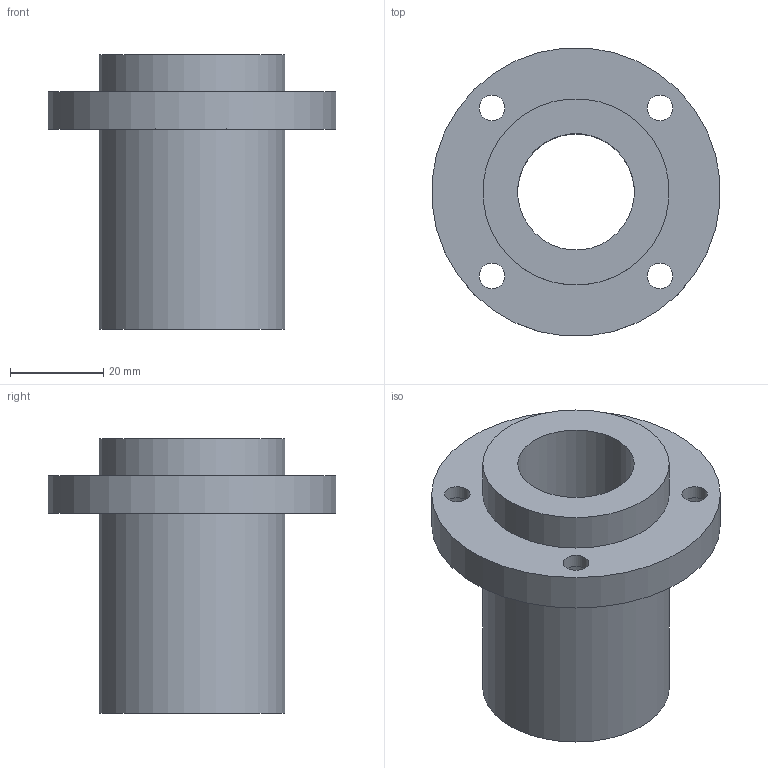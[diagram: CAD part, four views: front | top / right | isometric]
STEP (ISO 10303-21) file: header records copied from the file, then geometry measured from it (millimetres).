
FILE_DESCRIPTION(/* description */ (''),/* implementation_level */ '2;1');
FILE_NAME(/* name */ 'LMFP25UU',/* time_stamp */ '2019-07-03T11:33:16+02:00',/* author */ ('VĂ©gh MĂˇtĂ©'),/* organization */ ('Bearing Kft'),/* preprocessor_version */ 'ST-DEVELOPER v16.7',/* originating_system */ 'DEX',/* authorisation */ $);
FILE_SCHEMA (('AUTOMOTIVE_DESIGN {1 0 10303 214 3 1 1}'));
Length unit declared in the file: millimetre
Products named in the file (1): LMFP25UU
Bounding box: 61.76 x 61.76 x 59 mm (x, y, z)
Volume: 57700.8 mm3; surface area: 18271 mm2
Topology: 1 solids, 1 shells, 331 faces, 832 edges, 556 vertices
Faces by surface type: plane 256, bspline 61, cylinder 14
Full cylindrical faces by diameter (mm): 5.5 x4, 9 x4, 25 x1, 40 x2, 62 x1
Entity records: 12879 total; most frequent: CARTESIAN_POINT 5330, ORIENTED_EDGE 1630, DIRECTION 1263, EDGE_CURVE 815, LINE 665, VECTOR 665, VERTEX_POINT 552, EDGE_LOOP 407
